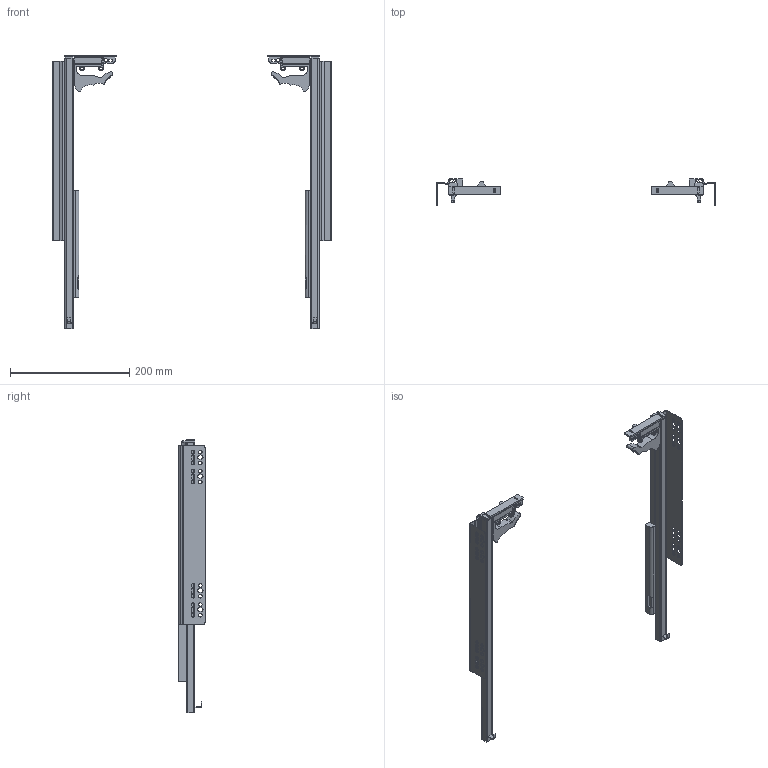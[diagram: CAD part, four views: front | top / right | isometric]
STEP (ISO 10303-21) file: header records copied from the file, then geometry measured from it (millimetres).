
FILE_DESCRIPTION(/* description */ ('Akc'),/* implementation_level */ '2;1');
FILE_NAME(/* name */ 'C:\Users\dmitruk\Documents\WORK\НАПРАВЛЯЮЩИЕ\Скрытого монтажа\Q-Type\Q-Type с замками (16 мм)\Q-Type с замками (16 мм)-450.stp',/* time_stamp */ '2022-04-22T17:47:22+03:00',/* author */ ('dmitruk'),/* organization */ (''),/* preprocessor_version */ 'ST-DEVELOPER v16.5',/* originating_system */ 'Autodesk Inventor 2017',/* authorisation */ '');
FILE_SCHEMA (('AUTOMOTIVE_DESIGN { 1 0 10303 214 3 1 1 }'));
Length unit declared in the file: millimetre
Products named in the file (6): Q-Type с замками 
(16 мм); Q-Type с замками \X2\043E0441
043D043E04320430043D04380435\X0\ L (16 мм); Q-Type с замками \X2\043E0441
043D043E04320430043D04380435\X0\ P (16 мм); Q-Type с замками 
выдвижение P; Крепление QType; Крепление QType P
Assembly tree (6 placements, depth 2):
  Q-Type с замками 
(16 мм)
    Q-Type с замками \X2\043E0441
043D043E04320430043D04380435\X0\ L (16 мм)
    Q-Type с замками 
выдвижение P  x2
    Q-Type с замками \X2\043E0441
043D043E04320430043D04380435\X0\ P (16 мм)
    Крепление QType
    Крепление QType P
Bounding box: 468 x 44 x 460 mm (x, y, z)
Volume: 241713 mm3; surface area: 271473.8 mm2
Topology: 16 solids, 16 shells, 578 faces, 1564 edges, 1022 vertices
Faces by surface type: plane 342, cylinder 212, cone 20, bspline 4
Full cylindrical faces by diameter (mm): 4.5 x4, 6 x32
Entity records: 17379 total; most frequent: CARTESIAN_POINT 3013, DIRECTION 2902, ORIENTED_EDGE 2824, EDGE_CURVE 1412, LINE 992, VECTOR 992, AXIS2_PLACEMENT_3D 955, VERTEX_POINT 950
